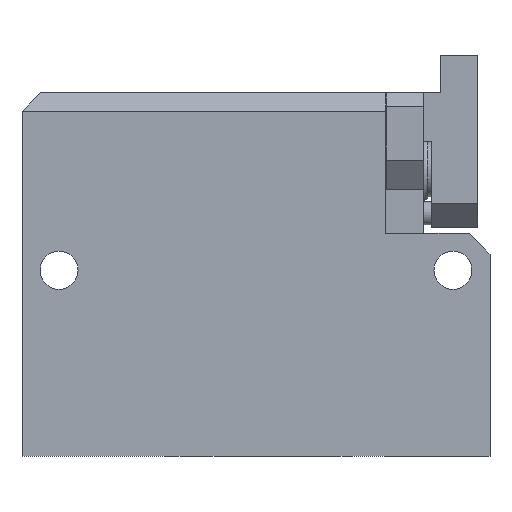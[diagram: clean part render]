
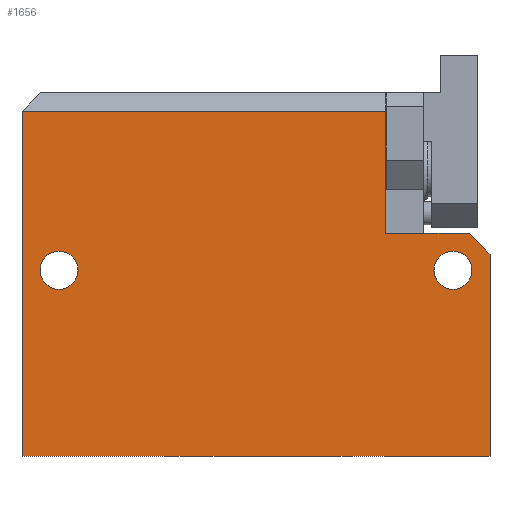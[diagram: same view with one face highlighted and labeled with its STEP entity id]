
A CAD part, left-side view. The second image highlights one B-rep face of the part: STEP entity #1656.
In plain terms, the highlighted planar face has unit normal (-1, 0, 0).
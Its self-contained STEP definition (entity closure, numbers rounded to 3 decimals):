
#31=LINE('',#2492,#178);
#49=LINE('',#2530,#196);
#52=LINE('',#2535,#199);
#53=LINE('',#2537,#200);
#54=LINE('',#2539,#201);
#55=LINE('',#2540,#202);
#56=LINE('',#2541,#203);
#178=VECTOR('',#2007,43.65);
#196=VECTOR('',#2035,74.5);
#199=VECTOR('',#2040,6.364);
#200=VECTOR('',#2041,18.);
#201=VECTOR('',#2042,26.35);
#202=VECTOR('',#2043,78.5);
#203=VECTOR('',#2044,101.);
#360=FACE_BOUND('',#532,.T.);
#361=FACE_BOUND('',#533,.T.);
#417=FACE_OUTER_BOUND('',#531,.T.);
#531=EDGE_LOOP('',(#1131,#1132,#1133,#1134,#1135,#1136,#1137));
#532=EDGE_LOOP('',(#1138));
#533=EDGE_LOOP('',(#1139));
#651=CIRCLE('',#1766,4.1);
#653=CIRCLE('',#1769,4.1);
#720=VERTEX_POINT('',#2458);
#722=VERTEX_POINT('',#2463);
#733=VERTEX_POINT('',#2489);
#734=VERTEX_POINT('',#2491);
#748=VERTEX_POINT('',#2528);
#749=VERTEX_POINT('',#2529);
#750=VERTEX_POINT('',#2534);
#751=VERTEX_POINT('',#2536);
#752=VERTEX_POINT('',#2538);
#873=EDGE_CURVE('',#720,#720,#651,.T.);
#875=EDGE_CURVE('',#722,#722,#653,.T.);
#886=EDGE_CURVE('',#733,#734,#31,.T.);
#904=EDGE_CURVE('',#748,#749,#49,.T.);
#907=EDGE_CURVE('',#733,#750,#52,.T.);
#908=EDGE_CURVE('',#751,#750,#53,.T.);
#909=EDGE_CURVE('',#752,#751,#54,.T.);
#910=EDGE_CURVE('',#752,#748,#55,.T.);
#911=EDGE_CURVE('',#749,#734,#56,.T.);
#1131=ORIENTED_EDGE('',*,*,#886,.F.);
#1132=ORIENTED_EDGE('',*,*,#907,.T.);
#1133=ORIENTED_EDGE('',*,*,#908,.F.);
#1134=ORIENTED_EDGE('',*,*,#909,.F.);
#1135=ORIENTED_EDGE('',*,*,#910,.T.);
#1136=ORIENTED_EDGE('',*,*,#904,.T.);
#1137=ORIENTED_EDGE('',*,*,#911,.T.);
#1138=ORIENTED_EDGE('',*,*,#875,.T.);
#1139=ORIENTED_EDGE('',*,*,#873,.T.);
#1481=PLANE('',#1788);
#1656=ADVANCED_FACE('',(#417,#360,#361),#1481,.F.);
#1766=AXIS2_PLACEMENT_3D('',#2459,#1971,#1972);
#1769=AXIS2_PLACEMENT_3D('',#2464,#1977,#1978);
#1788=AXIS2_PLACEMENT_3D('',#2533,#2038,#2039);
#1971=DIRECTION('center_axis',(1.,0.,0.));
#1972=DIRECTION('ref_axis',(0.,0.,-1.));
#1977=DIRECTION('center_axis',(1.,0.,0.));
#1978=DIRECTION('ref_axis',(0.,0.,-1.));
#2007=DIRECTION('',(0.,0.,-1.));
#2035=DIRECTION('',(0.,0.,-1.));
#2038=DIRECTION('center_axis',(1.,0.,0.));
#2039=DIRECTION('ref_axis',(0.,0.,-1.));
#2040=DIRECTION('',(0.,0.707,0.707));
#2041=DIRECTION('',(0.,-1.,0.));
#2042=DIRECTION('',(0.,0.,-1.));
#2043=DIRECTION('',(0.,1.,0.));
#2044=DIRECTION('',(0.,-1.,0.));
#2458=CARTESIAN_POINT('',(-22.,42.5,-4.1));
#2459=CARTESIAN_POINT('Origin',(-22.,42.5,0.));
#2463=CARTESIAN_POINT('',(-22.,-42.5,-4.1));
#2464=CARTESIAN_POINT('Origin',(-22.,-42.5,0.));
#2489=CARTESIAN_POINT('',(-22.,-50.5,3.5));
#2491=CARTESIAN_POINT('',(-22.,-50.5,-40.15));
#2492=CARTESIAN_POINT('',(-22.,-50.5,3.5));
#2528=CARTESIAN_POINT('',(-22.,50.5,34.35));
#2529=CARTESIAN_POINT('',(-22.,50.5,-40.15));
#2530=CARTESIAN_POINT('',(-22.,50.5,34.35));
#2533=CARTESIAN_POINT('Origin',(-22.,-50.5,38.35));
#2534=CARTESIAN_POINT('',(-22.,-46.,8.));
#2535=CARTESIAN_POINT('',(-22.,-50.5,3.5));
#2536=CARTESIAN_POINT('',(-22.,-28.,8.));
#2537=CARTESIAN_POINT('',(-22.,-28.,8.));
#2538=CARTESIAN_POINT('',(-22.,-28.,34.35));
#2539=CARTESIAN_POINT('',(-22.,-28.,34.35));
#2540=CARTESIAN_POINT('',(-22.,-28.,34.35));
#2541=CARTESIAN_POINT('',(-22.,50.5,-40.15));
